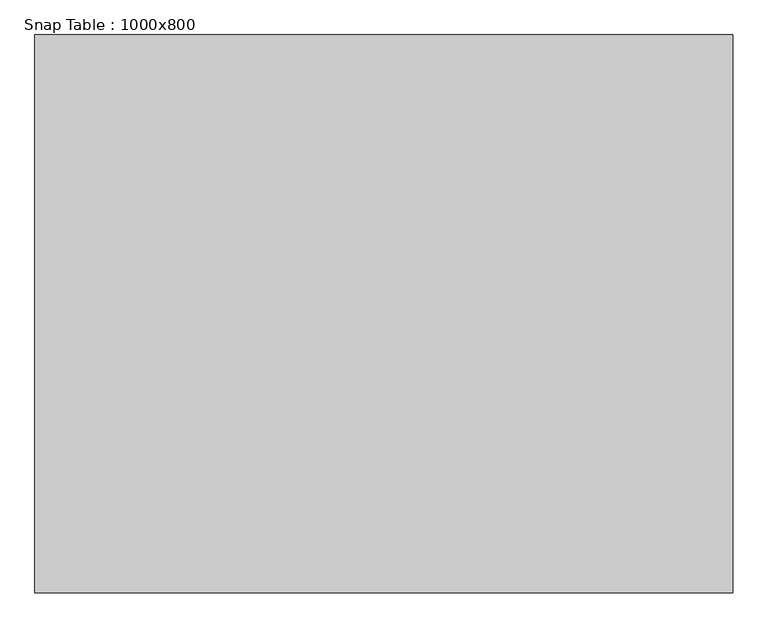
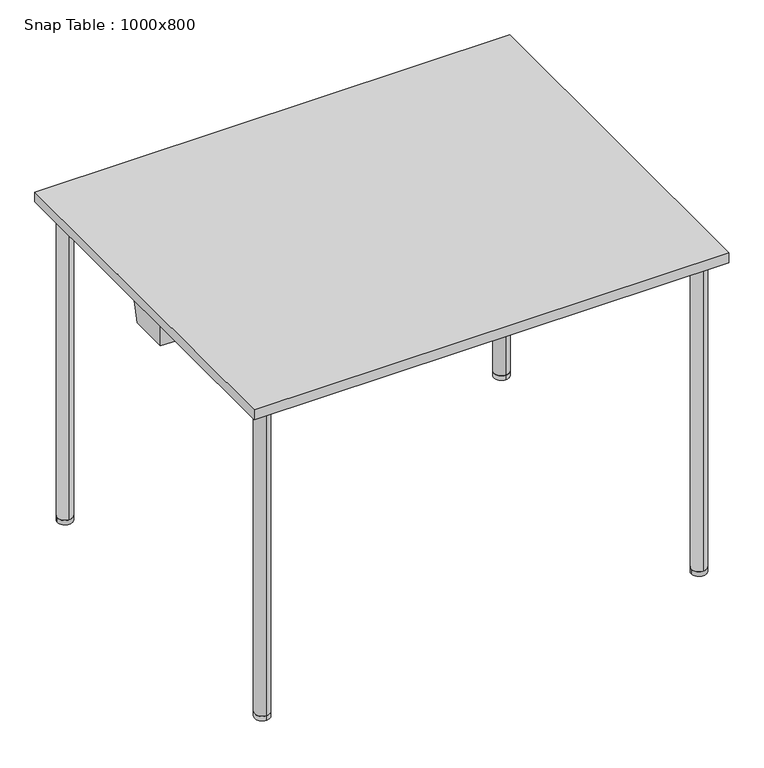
"""IFC4 building model written with IfcOpenShell, lengths in millimetres: furniture geometry, Snap Table : 1000x800."""

from ifc_helpers import new_model, si_unit, point, frame, frame_2d, origin, origin_with_axes, place, context, project, spatial, polyline, circle_curve, ellipse_curve, trimmed, segment, composite_curve, outline, extrude, faceted_brep, source, transform, mapped, element, save
from ifc_brep_helpers import plane_surface, cylinder_surface, revolved_surface, advanced_brep


def snap_table_1000x800_3c2c8929(model_context):
    return source(origin(), model_context, "Body", "SolidModel", [
        extrude(outline(composite_curve([segment(trimmed(circle_curve(frame_2d((460.0, -360.0)), 16.0), [point((476.0, -360.0))], [point((444.0, -360.0))], False, "CARTESIAN"), True, "CONTINUOUS"), segment(trimmed(circle_curve(frame_2d((460.0, -360.0)), 16.0), [point((444.0, -360.0))], [point((476.0, -360.0))], False, "CARTESIAN"), True, "CONTINUOUS")], self_intersect=False)), origin_with_axes(), (0.0, 0.0, 1.0), 10.0),
        extrude(outline(composite_curve([segment(trimmed(circle_curve(frame_2d((460.0, 360.0)), 16.0), [point((460.0, 344.0))], [point((460.0, 376.0))], False, "CARTESIAN"), True, "CONTINUOUS"), segment(trimmed(circle_curve(frame_2d((460.0, 360.0)), 16.0), [point((460.0, 376.0))], [point((460.0, 344.0))], False, "CARTESIAN"), True, "CONTINUOUS")], self_intersect=False)), origin_with_axes(), (0.0, 0.0, 1.0), 10.0),
        advanced_brep(
        [(460.0, -376.0, 10.0), (460.0, -344.0, 10.0), (460.0, -376.0, 689.0), (460.0, -344.0, 657.0), (460.0, 376.0, 689.0), (460.0, 344.0, 657.0), (460.0, 376.0, 10.0), (460.0, 344.0, 10.0)],
        [
            (0, 1, circle_curve(frame((460.0, -360.0, 10.0), z_axis=(0.0, 0.0, -1.0), x_axis=(0.0, 1.0, 0.0)), 16.0)),
            (1, 0, circle_curve(frame((460.0, -360.0, 10.0), z_axis=(0.0, 0.0, -1.0), x_axis=(0.0, 1.0, 0.0)), 16.0)),
            (0, 2),
            (2, 3, ellipse_curve(frame((460.0, -360.0, 673.0), z_axis=(0.0, -0.7071067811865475, -0.7071067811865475), x_axis=(0.0, 0.7071067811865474, -0.7071067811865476)), 22.627417, 16.0)),
            (3, 1),
            (3, 2, ellipse_curve(frame((460.0, -360.0, 673.0), z_axis=(0.0, -0.7071067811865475, -0.7071067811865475), x_axis=(0.0, 0.7071067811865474, -0.7071067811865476)), 22.627417, 16.0)),
            (2, 4),
            (4, 5, ellipse_curve(frame((460.0, 360.0, 673.0), z_axis=(0.0, -0.7071067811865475, 0.7071067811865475), x_axis=(0.0, -0.7071067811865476, -0.7071067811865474)), 22.627417, 16.0)),
            (5, 3),
            (5, 4, ellipse_curve(frame((460.0, 360.0, 673.0), z_axis=(0.0, -0.7071067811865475, 0.7071067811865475), x_axis=(0.0, -0.7071067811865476, -0.7071067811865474)), 22.627417, 16.0)),
            (6, 7, circle_curve(frame((460.0, 360.0, 10.0), z_axis=(0.0, 0.0, -1.0), x_axis=(0.0, -1.0, 0.0)), 16.0)),
            (7, 6, circle_curve(frame((460.0, 360.0, 10.0), z_axis=(0.0, 0.0, -1.0), x_axis=(0.0, -1.0, 0.0)), 16.0)),
            (4, 6),
            (7, 5),
        ],
        [
            plane_surface(frame((460.0, -360.0, 10.0), z_axis=(0.0, 0.0, -1.0), x_axis=(-1.0, 0.0, 0.0))),
            cylinder_surface(frame((460.0, -360.0, 10.0), z_axis=(0.0, 0.0, -1.0), x_axis=(0.0, 1.0, 0.0)), 16.0),
            cylinder_surface(frame((460.0, -360.0, 673.0), z_axis=(0.0, -1.0, 0.0), x_axis=(0.0, 0.0, -1.0)), 16.0),
            plane_surface(frame((460.0, 360.0, 10.0), z_axis=(0.0, 0.0, -1.0), x_axis=(-1.0, 0.0, 0.0))),
            cylinder_surface(frame((460.0, 360.0, 673.0), z_axis=(0.0, 0.0, 1.0), x_axis=(0.0, -1.0, 0.0)), 16.0),
        ],
        [
            (0, [[1, 2]]),
            (1, [[-1, 3, 4, 5]]),
            (1, [[-2, -5, 6, -3]]),
            (2, [[-4, 7, 8, 9]]),
            (2, [[-6, -9, 10, -7]]),
            (3, [[11, 12]]),
            (4, [[-8, 13, -12, 14]]),
            (4, [[-10, -14, -11, -13]]),
        ],
    ),
        extrude(outline(composite_curve([segment(trimmed(circle_curve(frame_2d((-460.0470276, 360.0)), 16.0), [point((-476.0470276, 360.0))], [point((-444.0470276, 360.0))], False, "CARTESIAN"), True, "CONTINUOUS"), segment(trimmed(circle_curve(frame_2d((-460.0470276, 360.0)), 16.0), [point((-444.0470276, 360.0))], [point((-476.0470276, 360.0))], False, "CARTESIAN"), True, "CONTINUOUS")], self_intersect=False)), origin_with_axes(), (0.0, 0.0, 1.0), 10.0),
        extrude(outline(composite_curve([segment(trimmed(circle_curve(frame_2d((-460.0470276, -360.0)), 16.0), [point((-460.0470276, -344.0))], [point((-460.0470276, -376.0))], False, "CARTESIAN"), True, "CONTINUOUS"), segment(trimmed(circle_curve(frame_2d((-460.0470276, -360.0)), 16.0), [point((-460.0470276, -376.0))], [point((-460.0470276, -344.0))], False, "CARTESIAN"), True, "CONTINUOUS")], self_intersect=False)), origin_with_axes(), (0.0, 0.0, 1.0), 10.0),
        advanced_brep(
        [(-460.0470276, 376.0, 10.0), (-460.0470276, 344.0, 10.0), (-460.0470276, 376.0, 689.0), (-460.0470276, 344.0, 657.0), (-460.0470276, -376.0, 689.0), (-460.0470276, -344.0, 657.0), (-460.0470276, -376.0, 10.0), (-460.0470276, -344.0, 10.0)],
        [
            (0, 1, circle_curve(frame((-460.0470276, 360.0, 10.0), z_axis=(0.0, 0.0, -1.0), x_axis=(0.0, -1.0, 0.0)), 16.0)),
            (1, 0, circle_curve(frame((-460.0470276, 360.0, 10.0), z_axis=(0.0, 0.0, -1.0), x_axis=(0.0, -1.0, 0.0)), 16.0)),
            (0, 2),
            (2, 3, ellipse_curve(frame((-460.0470276, 360.0, 673.0), z_axis=(0.0, 0.7071067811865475, -0.7071067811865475), x_axis=(0.0, -0.7071067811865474, -0.7071067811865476)), 22.627417, 16.0)),
            (3, 1),
            (3, 2, ellipse_curve(frame((-460.0470276, 360.0, 673.0), z_axis=(0.0, 0.7071067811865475, -0.7071067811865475), x_axis=(0.0, -0.7071067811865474, -0.7071067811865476)), 22.627417, 16.0)),
            (2, 4),
            (4, 5, ellipse_curve(frame((-460.0470276, -360.0, 673.0), z_axis=(0.0, 0.7071067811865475, 0.7071067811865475), x_axis=(0.0, 0.7071067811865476, -0.7071067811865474)), 22.627417, 16.0)),
            (5, 3),
            (5, 4, ellipse_curve(frame((-460.0470276, -360.0, 673.0), z_axis=(0.0, 0.7071067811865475, 0.7071067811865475), x_axis=(0.0, 0.7071067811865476, -0.7071067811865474)), 22.627417, 16.0)),
            (6, 7, circle_curve(frame((-460.0470276, -360.0, 10.0), z_axis=(0.0, 0.0, -1.0), x_axis=(0.0, 1.0, 0.0)), 16.0)),
            (7, 6, circle_curve(frame((-460.0470276, -360.0, 10.0), z_axis=(0.0, 0.0, -1.0), x_axis=(0.0, 1.0, 0.0)), 16.0)),
            (4, 6),
            (7, 5),
        ],
        [
            plane_surface(frame((-460.0470276, 360.0, 10.0), z_axis=(0.0, 0.0, -1.0), x_axis=(1.0, 0.0, 0.0))),
            cylinder_surface(frame((-460.0470276, 360.0, 10.0), z_axis=(0.0, 0.0, -1.0), x_axis=(0.0, -1.0, 0.0)), 16.0),
            cylinder_surface(frame((-460.0470276, 360.0, 673.0), z_axis=(0.0, 1.0, 0.0), x_axis=(0.0, 0.0, -1.0)), 16.0),
            plane_surface(frame((-460.0470276, -360.0, 10.0), z_axis=(0.0, 0.0, -1.0), x_axis=(1.0, 0.0, 0.0))),
            cylinder_surface(frame((-460.0470276, -360.0, 673.0), z_axis=(0.0, 0.0, 1.0), x_axis=(0.0, 1.0, 0.0)), 16.0),
        ],
        [
            (0, [[1, 2]]),
            (1, [[-1, 3, 4, 5]]),
            (1, [[-2, -5, 6, -3]]),
            (2, [[-4, 7, 8, 9]]),
            (2, [[-6, -9, 10, -7]]),
            (3, [[11, 12]]),
            (4, [[-8, 13, -12, 14]]),
            (4, [[-10, -14, -11, -13]]),
        ],
    ),
        extrude(outline(polyline([(500.0, 400.0), (500.0, -400.0), (-500.0, -400.0), (-500.0, 400.0), (500.0, 400.0)])), frame((0.0, 0.0, 698.0), z_axis=(0.0, 0.0, 1.0), x_axis=(1.0, 0.0, 0.0)), (0.0, 0.0, 1.0), 22.0),
        advanced_brep(
        [(-490.8110657, 42.2236058, 643.0), (-457.6910354, 44.5767873, 643.0), (-440.5708933, 36.0824003, 643.0), (440.5710292, 36.0824678, 643.0), (457.6910354, 44.5767873, 643.0), (490.8110657, 42.2236058, 643.0), (490.8110657, -42.2236058, 643.0), (457.6044607, -44.2417031, 643.0), (440.4018781, -36.0497649, 643.0), (-440.4020196, -36.0498323, 643.0), (-457.6044607, -44.2417031, 643.0), (-490.8110657, -42.2236058, 643.0), (-494.8110657, 48.9570516, 698.0), (-494.8110657, -48.9934252, 698.0), (-456.225892, -51.3383995, 698.0), (-434.6205129, -41.049832, 698.0), (434.6203726, -41.0497654, 698.0), (456.225892, -51.3383995, 698.0), (494.8110657, -48.9934252, 698.0), (494.8110657, 48.9570516, 698.0), (456.286594, 51.6942192, 698.0), (434.8989768, 41.0824675, 698.0), (-434.8988421, 41.0824008, 698.0), (-456.286594, 51.6942192, 698.0), (-457.2475737, -46.0789118, 657.2385232), (-476.0, -46.9489596, 673.0), (-456.4614069, -50.125999, 688.6037931), (-444.0, -41.9922101, 673.0), (457.2475737, -46.0789118, 657.2385232), (444.0, -41.9922101, 673.0), (456.4614069, -50.125999, 688.6037931), (476.0, -46.9489596, 673.0), (457.3278029, 46.4175782, 657.2247231), (476.0, 47.1037405, 673.0), (456.5261576, 50.4801582, 688.618336), (444.0, 42.0461233, 673.0), (-457.3278029, 46.4175782, 657.2247231), (-444.0, 42.0461233, 673.0), (-456.5261576, 50.4801582, 688.618336), (-476.0, 47.1037405, 673.0)],
        [
            (0, 1),
            (1, 2),
            (2, 3),
            (3, 4),
            (4, 5),
            (5, 6),
            (6, 7),
            (7, 8),
            (8, 9),
            (9, 10),
            (10, 11),
            (11, 0),
            (12, 13),
            (13, 14),
            (14, 15),
            (15, 16),
            (16, 17),
            (17, 18),
            (18, 19),
            (19, 20),
            (20, 21),
            (21, 22),
            (22, 23),
            (23, 12),
            (11, 13),
            (12, 0),
            (10, 24),
            (24, 25, ellipse_curve(frame((-460.0, -47.9213432, 673.0), z_axis=(0.0601766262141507, 0.9901710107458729, 0.126254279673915), x_axis=(0.42602826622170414, -0.13986196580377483, 0.8938336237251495)), 16.1588249, 16.0)),
            (25, 26, ellipse_curve(frame((-460.0, -47.9213432, 673.0), z_axis=(0.0601766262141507, 0.9901710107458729, 0.126254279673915), x_axis=(0.42602826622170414, -0.13986196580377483, 0.8938336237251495)), 16.1588249, 16.0)),
            (26, 14),
            (9, 15),
            (26, 27, ellipse_curve(frame((-460.0, -49.6114737, 673.0), z_axis=(-0.42650306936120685, 0.8956310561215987, 0.1262542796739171), x_axis=(-0.8587935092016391, -0.4447977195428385, 0.2542217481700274)), 17.8644989, 16.0)),
            (27, 24, ellipse_curve(frame((-460.0, -49.6114737, 673.0), z_axis=(-0.42650306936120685, 0.8956310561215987, 0.1262542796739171), x_axis=(-0.8587935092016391, -0.4447977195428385, 0.2542217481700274)), 17.8644989, 16.0)),
            (8, 16),
            (7, 28),
            (28, 29, ellipse_curve(frame((460.0, -49.6114737, 673.0), z_axis=(0.42650306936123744, 0.8956310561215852, 0.12625427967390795), x_axis=(0.8587935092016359, -0.4447977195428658, 0.25422174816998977)), 17.8644989, 16.0)),
            (29, 30, ellipse_curve(frame((460.0, -49.6114737, 673.0), z_axis=(0.42650306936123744, 0.8956310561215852, 0.12625427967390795), x_axis=(0.8587935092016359, -0.4447977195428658, 0.25422174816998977)), 17.8644989, 16.0)),
            (30, 17),
            (6, 18),
            (30, 31, ellipse_curve(frame((460.0, -47.9213432, 673.0), z_axis=(-0.06017662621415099, 0.9901710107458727, 0.12625427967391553), x_axis=(-0.4260282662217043, -0.13986196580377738, 0.8938336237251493)), 16.1588249, 16.0)),
            (31, 28, ellipse_curve(frame((460.0, -47.9213432, 673.0), z_axis=(-0.06017662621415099, 0.9901710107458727, 0.12625427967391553), x_axis=(-0.4260282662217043, -0.13986196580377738, 0.8938336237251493)), 16.1588249, 16.0)),
            (5, 19),
            (4, 32),
            (32, 33, ellipse_curve(frame((460.0, 48.2405422, 673.0), z_axis=(-0.07030432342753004, -0.9895034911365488, 0.12625427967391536), x_axis=(0.48139832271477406, -0.14450896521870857, -0.8645072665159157)), 16.1697257, 16.0)),
            (33, 34, ellipse_curve(frame((460.0, 48.2405422, 673.0), z_axis=(-0.07030432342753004, -0.9895034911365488, 0.12625427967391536), x_axis=(0.48139832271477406, -0.14450896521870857, -0.8645072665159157)), 16.1697257, 16.0)),
            (34, 20),
            (3, 21),
            (34, 35, ellipse_curve(frame((460.0, 49.9847369, 673.0), z_axis=(0.44090536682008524, -0.8886294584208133, 0.12625427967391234), x_axis=(-0.854294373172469, -0.4586258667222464, -0.2446291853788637)), 18.005255, 16.0)),
            (35, 32, ellipse_curve(frame((460.0, 49.9847369, 673.0), z_axis=(0.44090536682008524, -0.8886294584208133, 0.12625427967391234), x_axis=(-0.854294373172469, -0.4586258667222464, -0.2446291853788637)), 18.005255, 16.0)),
            (2, 22),
            (1, 36),
            (36, 37, ellipse_curve(frame((-460.0, 49.9847369, 673.0), z_axis=(-0.4409053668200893, -0.88862945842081, 0.12625427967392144), x_axis=(0.8542943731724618, -0.4586258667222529, -0.24462918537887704)), 18.005255, 16.0)),
            (37, 38, ellipse_curve(frame((-460.0, 49.9847369, 673.0), z_axis=(-0.4409053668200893, -0.88862945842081, 0.12625427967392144), x_axis=(0.8542943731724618, -0.4586258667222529, -0.24462918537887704)), 18.005255, 16.0)),
            (38, 23),
            (38, 39, ellipse_curve(frame((-460.0, 48.2405422, 673.0), z_axis=(0.07030432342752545, -0.9895034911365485, 0.12625427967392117), x_axis=(-0.481398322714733, -0.14450896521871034, -0.8645072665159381)), 16.1697257, 16.0)),
            (39, 36, ellipse_curve(frame((-460.0, 48.2405422, 673.0), z_axis=(0.07030432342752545, -0.9895034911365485, 0.12625427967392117), x_axis=(-0.481398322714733, -0.14450896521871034, -0.8645072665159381)), 16.1697257, 16.0)),
            (35, 29),
            (31, 33),
            (39, 25),
            (27, 37),
        ],
        [
            plane_surface(frame((-5e-07, 0.0612866, 643.0), z_axis=(0.0, 0.0, -1.0), x_axis=(0.0, -1.0, 0.0))),
            plane_surface(frame((-5e-07, 0.0586803, 698.0), z_axis=(0.0, 0.0, 1.0), x_axis=(0.0, -1.0, 0.0))),
            plane_surface(frame((-494.8110657, -0.0181868, 698.0), z_axis=(-0.997365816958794, 0.0, -0.07253569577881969), x_axis=(0.0, 1.0, 0.0))),
            plane_surface(frame((-475.5184789, -50.1659123, 698.0), z_axis=(-0.0601766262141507, -0.9901710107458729, -0.126254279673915), x_axis=(-0.9981583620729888, 0.06066204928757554, 0.0))),
            plane_surface(frame((-445.4232025, -46.1941158, 698.0), z_axis=(0.42650306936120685, -0.8956310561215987, -0.1262542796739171), x_axis=(-0.9028557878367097, -0.4299435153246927, 0.0))),
            plane_surface(frame((-7.01e-05, -41.0497986, 698.0), z_axis=(7.621604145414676e-08, -0.9958932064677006, -0.09053574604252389), x_axis=(-0.9999999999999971, -7.653033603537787e-08, 0.0))),
            plane_surface(frame((445.4231323, -46.1940824, 698.0), z_axis=(-0.42650306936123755, -0.8956310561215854, -0.12625427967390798), x_axis=(-0.9028557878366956, 0.4299435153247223, 0.0))),
            plane_surface(frame((475.5184789, -50.1659123, 698.0), z_axis=(0.060176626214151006, -0.9901710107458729, -0.12625427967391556), x_axis=(-0.9981583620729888, -0.06066204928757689, 0.0))),
            plane_surface(frame((494.8110657, -0.0181868, 698.0), z_axis=(0.9973658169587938, 0.0, -0.07253569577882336), x_axis=(0.0, -1.0, 0.0))),
            plane_surface(frame((475.5488298, 50.3256354, 698.0), z_axis=(0.07030432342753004, 0.9895034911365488, -0.12625427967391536), x_axis=(0.9974854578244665, -0.07087144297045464, 0.0))),
            plane_surface(frame((445.5927854, 46.3883433, 698.0), z_axis=(-0.44090536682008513, 0.8886294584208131, -0.1262542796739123), x_axis=(0.8957977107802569, 0.44446199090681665, 0.0))),
            plane_surface(frame((6.73e-05, 41.082434, 698.0), z_axis=(-7.620690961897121e-08, 0.995893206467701, -0.09053574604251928), x_axis=(0.9999999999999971, 7.652116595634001e-08, 0.0))),
            plane_surface(frame((-445.5927181, 46.3883099, 698.0), z_axis=(0.4409053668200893, 0.88862945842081, -0.12625427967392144), x_axis=(0.8957977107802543, -0.4444619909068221, 0.0))),
            plane_surface(frame((-475.5488298, 50.3256354, 698.0), z_axis=(-0.07030432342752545, 0.9895034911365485, -0.12625427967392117), x_axis=(0.997485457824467, 0.07087144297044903, 0.0))),
            revolved_surface(polyline([(476.0, -57.55756207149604, 673.0), (476.0, 58.24241257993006, 673.0)]), (460.0, 70.0, 673.0), (0.0, -1.0, 0.0)),
            revolved_surface(polyline([(-476.0, -57.55756207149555, 673.0), (-476.0, 58.242412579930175, 673.0)]), (-460.0, 70.0, 673.0), (0.0, -1.0, 0.0)),
        ],
        [
            (0, [[1, 2, 3, 4, 5, 6, 7, 8, 9, 10, 11, 12]]),
            (1, [[13, 14, 15, 16, 17, 18, 19, 20, 21, 22, 23, 24]]),
            (2, [[-12, 25, -13, 26]]),
            (3, [[-11, 27, 28, 29, 30, -14, -25]]),
            (4, [[-10, 31, -15, -30, 32, 33, -27]]),
            (5, [[-9, 34, -16, -31]]),
            (6, [[-8, 35, 36, 37, 38, -17, -34]]),
            (7, [[-7, 39, -18, -38, 40, 41, -35]]),
            (8, [[-6, 42, -19, -39]]),
            (9, [[-5, 43, 44, 45, 46, -20, -42]]),
            (10, [[-4, 47, -21, -46, 48, 49, -43]]),
            (11, [[-3, 50, -22, -47]]),
            (12, [[-2, 51, 52, 53, 54, -23, -50]]),
            (13, [[-1, -26, -24, -54, 55, 56, -51]]),
            (14, [[57, -36, -41, 58, -44, -49]]),
            (14, [[-57, -48, -45, -58, -40, -37]]),
            (15, [[59, -28, -33, 60, -52, -56]]),
            (15, [[-59, -55, -53, -60, -32, -29]]),
        ],
    ),
        faceted_brep([(430.1271057, 282.1409864, 643.0), (430.1271057, 327.0366315, 643.0), (441.3990784, 327.0366315, 643.0), (441.3990784, 282.1409864, 643.0), (426.2186584, 278.0138349, 688.0), (444.2631531, 278.0138349, 688.0), (444.2631531, 331.163783, 688.0), (426.2186584, 331.163783, 688.0)], [[[0, 1, 2, 3]], [[4, 5, 6, 7]], [[5, 4, 0, 3]], [[6, 5, 3, 2]], [[7, 6, 2, 1]], [[4, 7, 1, 0]]]),
        extrude(outline(polyline([(426.2186584, 331.163783), (477.86026, 331.163783), (477.86026, 278.0138349), (426.2186584, 278.0138349), (426.2186584, 331.163783)])), frame((0.0, 0.0, 688.0), z_axis=(0.0, 0.0, 1.0), x_axis=(1.0, 0.0, 0.0)), (0.0, 0.0, 1.0), 10.0),
        faceted_brep([(430.1271057, -282.1409864, 643.0), (441.3990784, -282.1409864, 643.0), (441.3990784, -327.0366315, 643.0), (430.1271057, -327.0366315, 643.0), (426.2186584, -278.0138349, 688.0), (426.2186584, -331.163783, 688.0), (444.2631531, -331.163783, 688.0), (444.2631531, -278.0138349, 688.0)], [[[0, 1, 2, 3]], [[4, 5, 6, 7]], [[4, 7, 1, 0]], [[7, 6, 2, 1]], [[6, 5, 3, 2]], [[5, 4, 0, 3]]]),
        extrude(outline(polyline([(426.2186584, -331.163783), (426.2186584, -278.0138349), (477.86026, -278.0138349), (477.86026, -331.163783), (426.2186584, -331.163783)])), frame((0.0, 0.0, 688.0), z_axis=(0.0, 0.0, 1.0), x_axis=(1.0, 0.0, 0.0)), (0.0, 0.0, 1.0), 10.0),
        faceted_brep([(-430.1271057, 282.1409864, 643.0), (-441.3990784, 282.1409864, 643.0), (-441.3990784, 327.0366315, 643.0), (-430.1271057, 327.0366315, 643.0), (-426.2186584, 278.0138349, 688.0), (-426.2186584, 331.163783, 688.0), (-444.2631531, 331.163783, 688.0), (-444.2631531, 278.0138349, 688.0)], [[[0, 1, 2, 3]], [[4, 5, 6, 7]], [[4, 7, 1, 0]], [[7, 6, 2, 1]], [[6, 5, 3, 2]], [[5, 4, 0, 3]]]),
        extrude(outline(polyline([(-426.2186584, 331.163783), (-426.2186584, 278.0138349), (-477.86026, 278.0138349), (-477.86026, 331.163783), (-426.2186584, 331.163783)])), frame((0.0, 0.0, 688.0), z_axis=(0.0, 0.0, 1.0), x_axis=(1.0, 0.0, 0.0)), (0.0, 0.0, 1.0), 10.0),
        faceted_brep([(-430.1271057, -282.1409864, 643.0), (-430.1271057, -327.0366315, 643.0), (-441.3990784, -327.0366315, 643.0), (-441.3990784, -282.1409864, 643.0), (-426.2186584, -278.0138349, 688.0), (-444.2631531, -278.0138349, 688.0), (-444.2631531, -331.163783, 688.0), (-426.2186584, -331.163783, 688.0)], [[[0, 1, 2, 3]], [[4, 5, 6, 7]], [[5, 4, 0, 3]], [[6, 5, 3, 2]], [[7, 6, 2, 1]], [[4, 7, 1, 0]]]),
        extrude(outline(polyline([(-426.2186584, -331.163783), (-477.86026, -331.163783), (-477.86026, -278.0138349), (-426.2186584, -278.0138349), (-426.2186584, -331.163783)])), frame((0.0, 0.0, 688.0), z_axis=(0.0, 0.0, 1.0), x_axis=(1.0, 0.0, 0.0)), (0.0, 0.0, 1.0), 10.0),
    ])


if __name__ == "__main__":
    model = new_model("IFC4")
    model_context = context("Model", 3, world=origin())
    ifc_project = project(units=[si_unit("LENGTHUNIT", "METRE", prefix="MILLI")], contexts=[model_context])
    site = spatial("IfcSite", under=ifc_project)
    building = spatial("IfcBuilding", under=site)
    placement = place(None, origin())
    snap_table_1000x800_shape = snap_table_1000x800_3c2c8929(model_context)
    element("IfcFurniture", 1, ObjectType="Snap Table : 1000x800", at=placement, inside=building, context=model_context, shape_type="MappedRepresentation", body=[
        mapped(snap_table_1000x800_shape, transform((0.0, 0.0, 0.0), x_axis=(1.0, 0.0, 0.0), y_axis=(0.0, 1.0, 0.0), z_axis=(0.0, 0.0, 1.0))),
    ])
    save(model, "model.ifc")
